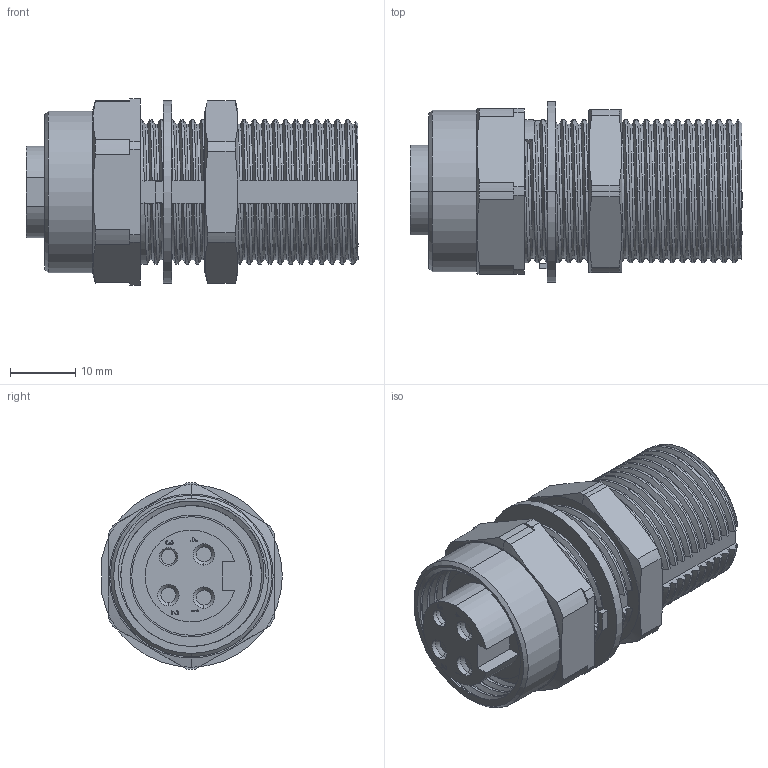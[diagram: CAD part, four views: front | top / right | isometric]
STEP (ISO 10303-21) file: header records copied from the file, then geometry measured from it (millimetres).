
FILE_DESCRIPTION (( 'STEP AP214' ), '1' );
FILE_NAME ('MIN-4MFRF-TM.STEP', '2020-06-24T11:29:21', ( '' ), ( '' ), 'SwSTEP 2.0', 'SolidWorks 2018', '' );
FILE_SCHEMA (( 'AUTOMOTIVE_DESIGN' ));
Length unit declared in the file: millimetre
Products named in the file (2): MIN-4MFRF-TM
Bounding box: 50.9 x 27.69 x 28.57 mm (x, y, z)
Volume: 18491.9 mm3; surface area: 8404 mm2
Topology: 1 solids, 2 shells, 489 faces, 1309 edges, 861 vertices
Faces by surface type: bspline 155, plane 151, cylinder 143, cone 32, torus 8
Entity records: 86797 total; most frequent: CARTESIAN_POINT 70820, ORIENTED_EDGE 2618, DIRECTION 1645, EDGE_CURVE 1309, VERTEX_POINT 861, AXIS2_PLACEMENT_3D 550, VECTOR 545, LINE 545
